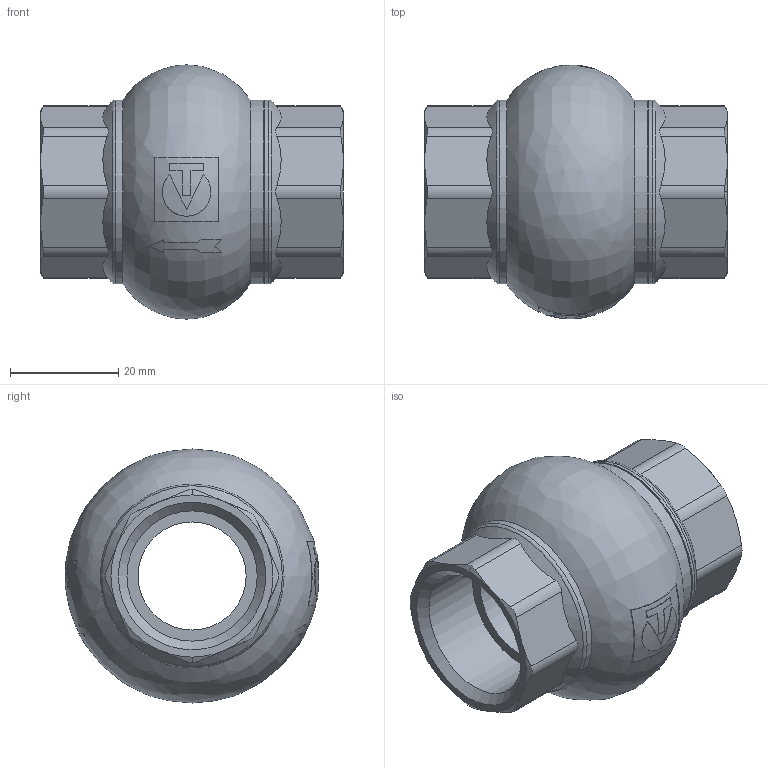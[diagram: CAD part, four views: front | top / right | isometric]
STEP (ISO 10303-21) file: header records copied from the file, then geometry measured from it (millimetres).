
FILE_DESCRIPTION(('TFLEX Exchange Step'),'2;1');
FILE_NAME('Check valve DN20, 3_4 VT.151.N.05 Valtec.stp', '2023-09-12T13:05:40+03:00',('denis'),('Unknown organisation'),'TFLEX Exchange 2023.0','T-FLEX CAD','Unknown authorisation');
FILE_SCHEMA( ('AUTOMOTIVE_DESIGN { 1 0 10303 214 1 1 1 1 }') );
Length unit declared in the file: millimetre
Products named in the file (1): Nodes
Bounding box: 56 x 46.97 x 47 mm (x, y, z)
Volume: 38548.5 mm3; surface area: 11734.1 mm2
Topology: 1 solids, 1 shells, 169 faces, 464 edges, 310 vertices
Faces by surface type: plane 92, bspline 26, cone 25, cylinder 24, torus 2
Full cylindrical faces by diameter (mm): 20 x1, 24.1 x2, 34 x3
Entity records: 7874 total; most frequent: CARTESIAN_POINT 4270, ORIENTED_EDGE 928, DIRECTION 487, EDGE_CURVE 464, VERTEX_POINT 310, B_SPLINE_CURVE_WITH_KNOTS 227, EDGE_LOOP 184, FACE_BOUND 184
